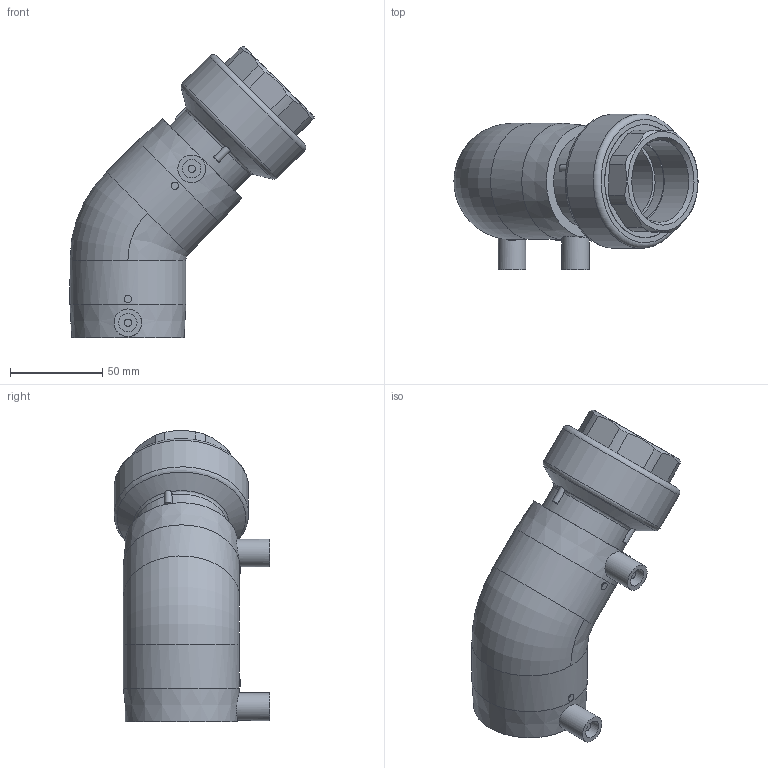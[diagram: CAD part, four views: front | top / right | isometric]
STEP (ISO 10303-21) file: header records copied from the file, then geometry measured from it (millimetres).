
FILE_DESCRIPTION(/* description */ ('Unknown'),/* implementation_level */ '2;1');
FILE_NAME(/* name */ 'GE4TFP050C',/* time_stamp */ '2021-03-02T15:38:16+01:00',/* author */ ('Unknown'),/* organization */ ('Unknown'),/* preprocessor_version */ 'ST-DEVELOPER v16.7',/* originating_system */ 'Solid Edge',/* authorisation */ 'Unknown');
FILE_SCHEMA (('AUTOMOTIVE_DESIGN {1 0 10303 214 3 1 1}'));
Length unit declared in the file: millimetre
Products named in the file (5): GE4TFP050C; GE4P050C; RTOFP050C; Parte PE 050; IOF050C
Assembly tree (4 placements, depth 3):
  GE4TFP050C
    GE4P050C
    RTOFP050C
      Parte PE 050
      IOF050C
Bounding box: 132.62 x 84.42 x 158.12 mm (x, y, z)
Volume: 265650.3 mm3; surface area: 102208.1 mm2
Topology: 3 solids, 3 shells, 197 faces, 470 edges, 305 vertices
Faces by surface type: plane 108, cylinder 54, bspline 16, torus 13, cone 6
Full cylindrical faces by diameter (mm): 4 x4, 10 x2, 15 x2, 40.8 x1, 44 x3, 44.845 x1, 48.5 x2, 50 x3, 55.5 x4, 57.3 x2, 61.5 x8, 63 x2, 73 x1
Entity records: 6610 total; most frequent: CARTESIAN_POINT 1660, DIRECTION 930, ORIENTED_EDGE 822, EDGE_CURVE 411, AXIS2_PLACEMENT_3D 383, VERTEX_POINT 290, EDGE_LOOP 273, FACE_BOUND 273
